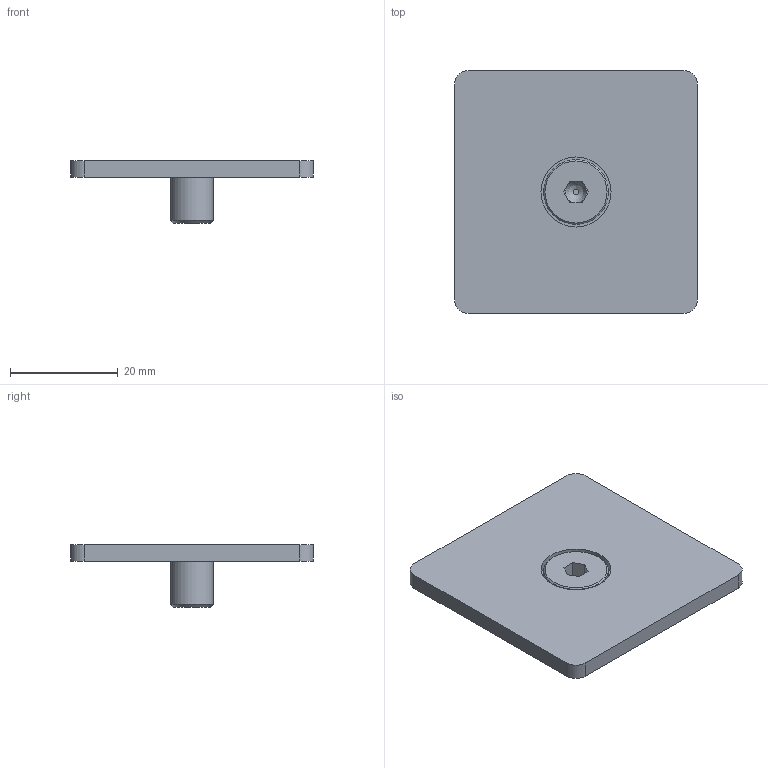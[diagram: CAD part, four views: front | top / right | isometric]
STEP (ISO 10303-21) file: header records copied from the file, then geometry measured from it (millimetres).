
FILE_DESCRIPTION(/* description */ ('END CAP 45X45 AL'),/* implementation_level */ '2;1');
FILE_NAME(/* name */ '22.1067_2 END CAP 45X45 AL.stp',/* time_stamp */ '2025-10-27T10:35:25-04:00',/* author */ ('amoles'),/* organization */ (''),/* preprocessor_version */ 'ST-DEVELOPER v19.2',/* originating_system */ 'Autodesk Inventor 2024',/* authorisation */ '');
FILE_SCHEMA (('AUTOMOTIVE_DESIGN { 1 0 10303 214 3 1 1 }'));
Length unit declared in the file: millimetre
Products named in the file (3): 22.1067/2 ; 22.1067/7; 21.1666
Assembly tree (2 placements, depth 2):
  22.1067/2 
    22.1067/7
    21.1666
Bounding box: 45 x 45 x 11.55 mm (x, y, z)
Volume: 6362.6 mm3; surface area: 5156.3 mm2
Topology: 2 solids, 2 shells, 34 faces, 72 edges, 45 vertices
Faces by surface type: plane 23, cylinder 8, cone 2, bspline 1
Full cylindrical faces by diameter (mm): 8 x1, 8.3 x1, 12 x1, 13 x1
Entity records: 1051 total; most frequent: CARTESIAN_POINT 184, DIRECTION 172, ORIENTED_EDGE 144, EDGE_CURVE 72, AXIS2_PLACEMENT_3D 63, LINE 46, VECTOR 46, VERTEX_POINT 45
